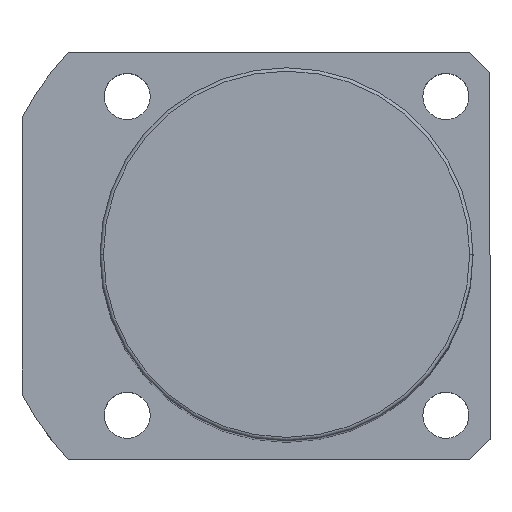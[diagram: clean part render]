
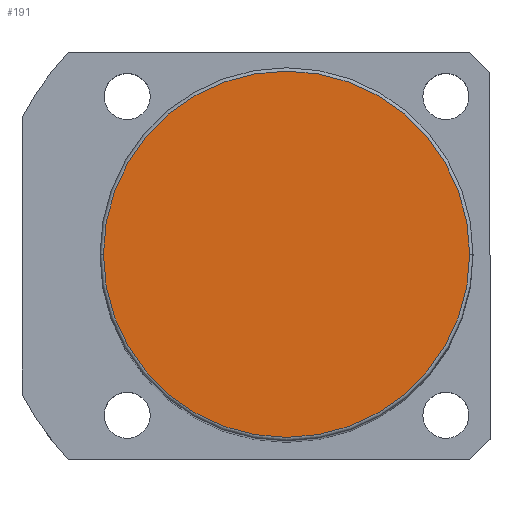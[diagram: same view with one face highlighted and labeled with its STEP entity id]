
A CAD part, top view. The second image highlights one B-rep face of the part: STEP entity #191.
In plain terms, the highlighted planar face has unit normal (0, 0, 1).
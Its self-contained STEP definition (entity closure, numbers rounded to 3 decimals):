
#99 = EDGE_CURVE ( 'NONE', #1485, #670, #270, .T. ) ;
#114 = AXIS2_PLACEMENT_3D ( 'NONE', #371, #730, #222 ) ;
#191 = ADVANCED_FACE ( 'NONE', ( #637 ), #603, .T. ) ;
#219 = ORIENTED_EDGE ( 'NONE', *, *, #505, .T. ) ;
#222 = DIRECTION ( 'NONE',  ( 1., 0., 0. ) ) ;
#270 = CIRCLE ( 'NONE', #1448, 27. ) ;
#287 = CARTESIAN_POINT ( 'NONE',  ( 27., 0., 146. ) ) ;
#293 = DIRECTION ( 'NONE',  ( 1., 0., 0. ) ) ;
#371 = CARTESIAN_POINT ( 'NONE',  ( 0., 0., 146. ) ) ;
#505 = EDGE_CURVE ( 'NONE', #670, #1485, #732, .T. ) ;
#515 = DIRECTION ( 'NONE',  ( 1., 0., 0. ) ) ;
#603 = PLANE ( 'NONE',  #114 ) ;
#637 = FACE_OUTER_BOUND ( 'NONE', #1528, .T. ) ;
#670 = VERTEX_POINT ( 'NONE', #287 ) ;
#730 = DIRECTION ( 'NONE',  ( 0., 0., 1. ) ) ;
#732 = CIRCLE ( 'NONE', #1140, 27. ) ;
#983 = CARTESIAN_POINT ( 'NONE',  ( 0., 0., 146. ) ) ;
#1048 = CARTESIAN_POINT ( 'NONE',  ( 0., 0., 146. ) ) ;
#1140 = AXIS2_PLACEMENT_3D ( 'NONE', #1048, #1605, #515 ) ;
#1380 = CARTESIAN_POINT ( 'NONE',  ( -27., 0., 146. ) ) ;
#1448 = AXIS2_PLACEMENT_3D ( 'NONE', #983, #1545, #293 ) ;
#1485 = VERTEX_POINT ( 'NONE', #1380 ) ;
#1528 = EDGE_LOOP ( 'NONE', ( #219, #1759 ) ) ;
#1545 = DIRECTION ( 'NONE',  ( 0., 0., 1. ) ) ;
#1605 = DIRECTION ( 'NONE',  ( 0., 0., 1. ) ) ;
#1759 = ORIENTED_EDGE ( 'NONE', *, *, #99, .T. ) ;
